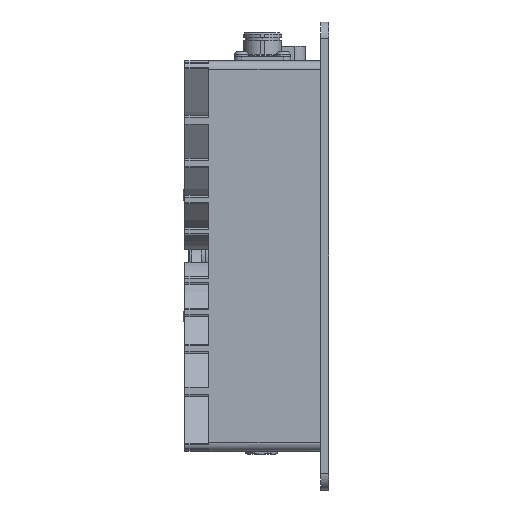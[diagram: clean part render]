
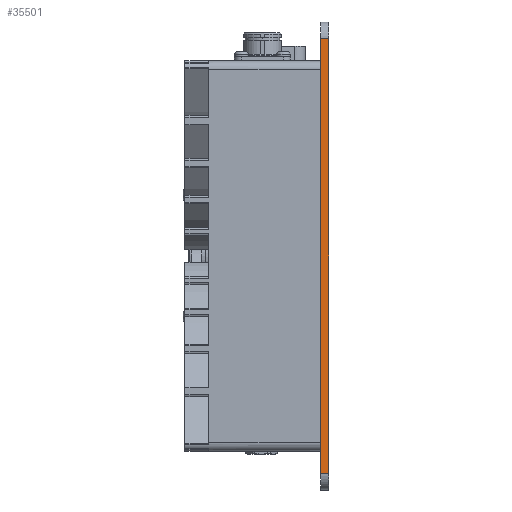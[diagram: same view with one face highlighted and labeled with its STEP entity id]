
A CAD part, left-side view. The second image highlights one B-rep face of the part: STEP entity #35501.
In plain terms, the highlighted planar face has unit normal (-1, 0, 0) as drawn and (0, 0, 1) by its records, which use the part's own axes.
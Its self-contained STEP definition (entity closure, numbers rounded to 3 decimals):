
#6849 = EDGE_CURVE ( 'NONE', #36793, #42966, #61623, .T. ) ;
#6884 = ORIENTED_EDGE ( 'NONE', *, *, #52481, .T. ) ;
#8636 = EDGE_CURVE ( 'NONE', #13529, #73505, #55191, .T. ) ;
#11729 = PLANE ( 'NONE',  #17771 ) ;
#13407 = ORIENTED_EDGE ( 'NONE', *, *, #8636, .T. ) ;
#13529 = VERTEX_POINT ( 'NONE', #83029 ) ;
#17771 = AXIS2_PLACEMENT_3D ( 'NONE', #25846, #38712, #65792 ) ;
#17799 = CARTESIAN_POINT ( 'NONE',  ( 243., 5., 0. ) ) ;
#17931 = FACE_OUTER_BOUND ( 'NONE', #81172, .T. ) ;
#24311 = EDGE_CURVE ( 'NONE', #73505, #42966, #27229, .T. ) ;
#25846 = CARTESIAN_POINT ( 'NONE',  ( 0., 5., 0. ) ) ;
#27229 = LINE ( 'NONE', #40536, #36045 ) ;
#28330 = CARTESIAN_POINT ( 'NONE',  ( 0., 5., 0. ) ) ;
#33483 = CARTESIAN_POINT ( 'NONE',  ( 0., 0., 0. ) ) ;
#35501 = ADVANCED_FACE ( 'NONE', ( #17931 ), #11729, .F. ) ;
#36045 = VECTOR ( 'NONE', #75998, 1000. ) ;
#36793 = VERTEX_POINT ( 'NONE', #65499 ) ;
#37122 = VECTOR ( 'NONE', #49543, 1000. ) ;
#38712 = DIRECTION ( 'NONE',  ( 0., 0., -1. ) ) ;
#40536 = CARTESIAN_POINT ( 'NONE',  ( 243., 5., 0. ) ) ;
#40582 = ORIENTED_EDGE ( 'NONE', *, *, #6849, .F. ) ;
#42896 = ORIENTED_EDGE ( 'NONE', *, *, #24311, .T. ) ;
#42966 = VERTEX_POINT ( 'NONE', #17799 ) ;
#44655 = LINE ( 'NONE', #57546, #37122 ) ;
#47327 = VECTOR ( 'NONE', #67596, 1000. ) ;
#49543 = DIRECTION ( 'NONE',  ( 0., -1., 0. ) ) ;
#52481 = EDGE_CURVE ( 'NONE', #36793, #13529, #44655, .T. ) ;
#53196 = CARTESIAN_POINT ( 'NONE',  ( 243., 0., 0. ) ) ;
#55191 = LINE ( 'NONE', #33483, #47327 ) ;
#57546 = CARTESIAN_POINT ( 'NONE',  ( -13., 0., 0. ) ) ;
#60748 = DIRECTION ( 'NONE',  ( 1., 0., 0. ) ) ;
#61623 = LINE ( 'NONE', #28330, #83997 ) ;
#65499 = CARTESIAN_POINT ( 'NONE',  ( -13., 5., 0. ) ) ;
#65792 = DIRECTION ( 'NONE',  ( -1., 0., 0. ) ) ;
#67596 = DIRECTION ( 'NONE',  ( 1., 0., 0. ) ) ;
#73505 = VERTEX_POINT ( 'NONE', #53196 ) ;
#75998 = DIRECTION ( 'NONE',  ( 0., 1., 0. ) ) ;
#81172 = EDGE_LOOP ( 'NONE', ( #40582, #6884, #13407, #42896 ) ) ;
#83029 = CARTESIAN_POINT ( 'NONE',  ( -13., 0., 0. ) ) ;
#83997 = VECTOR ( 'NONE', #60748, 1000. ) ;
